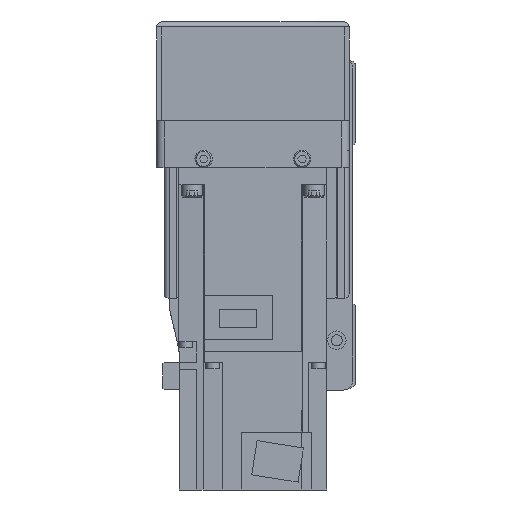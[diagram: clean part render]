
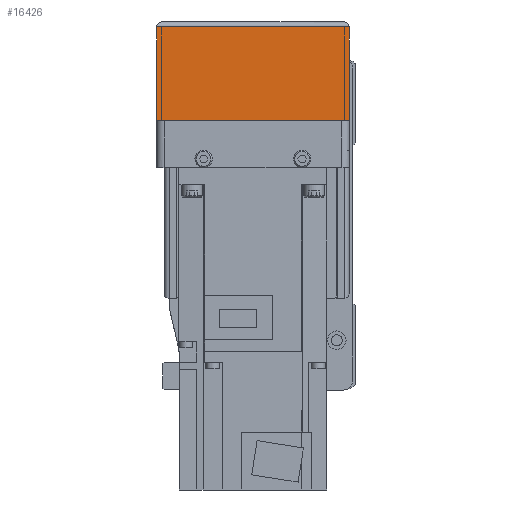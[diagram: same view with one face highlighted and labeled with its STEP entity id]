
A CAD part, left-side view. The second image highlights one B-rep face of the part: STEP entity #16426.
In plain terms, the highlighted planar face has unit normal (-1, 0, 0).
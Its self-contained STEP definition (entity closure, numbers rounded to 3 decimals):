
#2498=ORIENTED_EDGE('',*,*,#6621,.F.);
#2499=ORIENTED_EDGE('',*,*,#6622,.F.);
#2500=ORIENTED_EDGE('',*,*,#6623,.T.);
#2501=ORIENTED_EDGE('',*,*,#6624,.F.);
#6621=EDGE_CURVE('',#8781,#8772,#10474,.T.);
#6622=EDGE_CURVE('',#8798,#8781,#10475,.T.);
#6623=EDGE_CURVE('',#8798,#8799,#10476,.T.);
#6624=EDGE_CURVE('',#8772,#8799,#10477,.T.);
#8772=VERTEX_POINT('',#25276);
#8781=VERTEX_POINT('',#25294);
#8798=VERTEX_POINT('',#25342);
#8799=VERTEX_POINT('',#25344);
#10474=LINE('',#25340,#12027);
#10475=LINE('',#25341,#12028);
#10476=LINE('',#25343,#12029);
#10477=LINE('',#25345,#12030);
#12027=VECTOR('',#20296,1000.);
#12028=VECTOR('',#20297,1000.);
#12029=VECTOR('',#20298,1000.);
#12030=VECTOR('',#20299,1000.);
#13412=EDGE_LOOP('',(#2498,#2499,#2500,#2501));
#14647=FACE_BOUND('',#13412,.T.);
#15723=PLANE('',#17612);
#16426=ADVANCED_FACE('',(#14647),#15723,.F.);
#17612=AXIS2_PLACEMENT_3D('',#25339,#20294,#20295);
#20294=DIRECTION('',(1.,0.,0.));
#20295=DIRECTION('',(0.,0.,-1.));
#20296=DIRECTION('',(0.,-1.,0.));
#20297=DIRECTION('',(0.,0.,1.));
#20298=DIRECTION('',(0.,-1.,0.));
#20299=DIRECTION('',(0.,0.,-1.));
#25276=CARTESIAN_POINT('',(-158.,-39.,-12.1));
#25294=CARTESIAN_POINT('',(-158.,39.,-12.1));
#25339=CARTESIAN_POINT('',(-158.,36.,7.));
#25340=CARTESIAN_POINT('',(-158.,50.,-12.1));
#25341=CARTESIAN_POINT('',(-158.,39.,-50.));
#25342=CARTESIAN_POINT('',(-158.,39.,-50.));
#25343=CARTESIAN_POINT('',(-158.,40.,-50.));
#25344=CARTESIAN_POINT('',(-158.,-39.,-50.));
#25345=CARTESIAN_POINT('',(-158.,-39.,-12.1));
